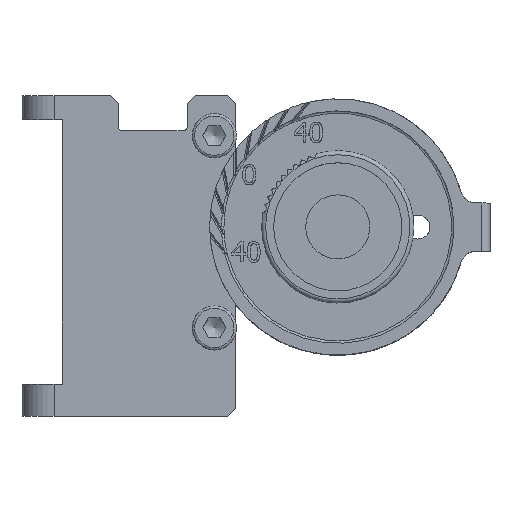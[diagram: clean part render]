
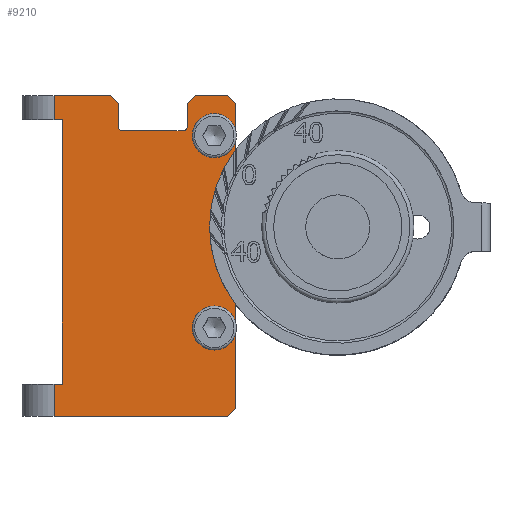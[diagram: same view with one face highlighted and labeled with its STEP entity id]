
A CAD part, top view. The second image highlights one B-rep face of the part: STEP entity #9210.
In plain terms, the highlighted planar face has unit normal (0, 0, 1).
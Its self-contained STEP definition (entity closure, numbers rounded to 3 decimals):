
#465=FACE_BOUND('',#2027,.T.);
#466=FACE_BOUND('',#2028,.T.);
#628=CIRCLE('',#9789,0.5);
#630=CIRCLE('',#9793,0.5);
#647=CIRCLE('',#9834,16.);
#648=CIRCLE('',#9839,1.9);
#649=CIRCLE('',#9840,1.9);
#967=PLANE('',#9838);
#1442=FACE_OUTER_BOUND('',#2026,.T.);
#2026=EDGE_LOOP('',(#7752,#7753,#7754,#7755,#7756,#7757,#7758,#7759,#7760,
#7761,#7762,#7763,#7764,#7765,#7766,#7767,#7768,#7769,#7770,#7771));
#2027=EDGE_LOOP('',(#7772));
#2028=EDGE_LOOP('',(#7773));
#2753=LINE('',#15475,#3495);
#2757=LINE('',#15487,#3499);
#2787=LINE('',#15558,#3529);
#2793=LINE('',#15573,#3535);
#2809=LINE('',#15614,#3551);
#2811=LINE('',#15619,#3553);
#2815=LINE('',#15625,#3557);
#2831=LINE('',#15663,#3573);
#2833=LINE('',#15666,#3575);
#2834=LINE('',#15668,#3576);
#2836=LINE('',#15673,#3578);
#2838=LINE('',#15682,#3580);
#2839=LINE('',#15684,#3581);
#2840=LINE('',#15686,#3582);
#2841=LINE('',#15688,#3583);
#2842=LINE('',#15690,#3584);
#2843=LINE('',#15691,#3585);
#3495=VECTOR('',#11531,7.6);
#3499=VECTOR('',#11543,2.9);
#3529=VECTOR('',#11599,1.414);
#3535=VECTOR('',#11611,7.);
#3551=VECTOR('',#11641,1.414);
#3553=VECTOR('',#11645,1.414);
#3557=VECTOR('',#11651,13.);
#3573=VECTOR('',#11683,1.414);
#3575=VECTOR('',#11687,4.);
#3576=VECTOR('',#11690,2.9);
#3578=VECTOR('',#11696,5.8);
#3580=VECTOR('',#11710,3.);
#3581=VECTOR('',#11711,1.);
#3582=VECTOR('',#11712,33.);
#3583=VECTOR('',#11713,1.);
#3584=VECTOR('',#11714,4.);
#3585=VECTOR('',#11715,21.6);
#4263=VERTEX_POINT('',#15465);
#4264=VERTEX_POINT('',#15466);
#4267=VERTEX_POINT('',#15474);
#4269=VERTEX_POINT('',#15480);
#4271=VERTEX_POINT('',#15486);
#4298=VERTEX_POINT('',#15556);
#4299=VERTEX_POINT('',#15557);
#4305=VERTEX_POINT('',#15571);
#4323=VERTEX_POINT('',#15613);
#4324=VERTEX_POINT('',#15617);
#4325=VERTEX_POINT('',#15618);
#4326=VERTEX_POINT('',#15623);
#4339=VERTEX_POINT('',#15660);
#4340=VERTEX_POINT('',#15662);
#4341=VERTEX_POINT('',#15672);
#4342=VERTEX_POINT('',#15681);
#4343=VERTEX_POINT('',#15683);
#4344=VERTEX_POINT('',#15685);
#4345=VERTEX_POINT('',#15687);
#4346=VERTEX_POINT('',#15689);
#4347=VERTEX_POINT('',#15692);
#4348=VERTEX_POINT('',#15694);
#5409=EDGE_CURVE('',#4263,#4264,#628,.T.);
#5413=EDGE_CURVE('',#4267,#4264,#2753,.T.);
#5416=EDGE_CURVE('',#4267,#4269,#630,.T.);
#5419=EDGE_CURVE('',#4271,#4269,#2757,.T.);
#5454=EDGE_CURVE('',#4298,#4299,#2787,.T.);
#5462=EDGE_CURVE('',#4298,#4305,#2793,.T.);
#5483=EDGE_CURVE('',#4271,#4323,#2809,.T.);
#5485=EDGE_CURVE('',#4324,#4325,#2811,.T.);
#5489=EDGE_CURVE('',#4324,#4326,#2815,.T.);
#5508=EDGE_CURVE('',#4339,#4340,#2831,.T.);
#5510=EDGE_CURVE('',#4339,#4323,#2833,.T.);
#5511=EDGE_CURVE('',#4263,#4299,#2834,.T.);
#5513=EDGE_CURVE('',#4341,#4340,#2836,.T.);
#5515=EDGE_CURVE('',#4326,#4341,#647,.T.);
#5516=EDGE_CURVE('',#4342,#4305,#2838,.T.);
#5517=EDGE_CURVE('',#4342,#4343,#2839,.T.);
#5518=EDGE_CURVE('',#4343,#4344,#2840,.T.);
#5519=EDGE_CURVE('',#4344,#4345,#2841,.T.);
#5520=EDGE_CURVE('',#4346,#4345,#2842,.T.);
#5521=EDGE_CURVE('',#4325,#4346,#2843,.T.);
#5522=EDGE_CURVE('',#4347,#4347,#648,.T.);
#5523=EDGE_CURVE('',#4348,#4348,#649,.T.);
#7752=ORIENTED_EDGE('',*,*,#5454,.F.);
#7753=ORIENTED_EDGE('',*,*,#5462,.T.);
#7754=ORIENTED_EDGE('',*,*,#5516,.F.);
#7755=ORIENTED_EDGE('',*,*,#5517,.T.);
#7756=ORIENTED_EDGE('',*,*,#5518,.T.);
#7757=ORIENTED_EDGE('',*,*,#5519,.T.);
#7758=ORIENTED_EDGE('',*,*,#5520,.F.);
#7759=ORIENTED_EDGE('',*,*,#5521,.F.);
#7760=ORIENTED_EDGE('',*,*,#5485,.F.);
#7761=ORIENTED_EDGE('',*,*,#5489,.T.);
#7762=ORIENTED_EDGE('',*,*,#5515,.T.);
#7763=ORIENTED_EDGE('',*,*,#5513,.T.);
#7764=ORIENTED_EDGE('',*,*,#5508,.F.);
#7765=ORIENTED_EDGE('',*,*,#5510,.T.);
#7766=ORIENTED_EDGE('',*,*,#5483,.F.);
#7767=ORIENTED_EDGE('',*,*,#5419,.T.);
#7768=ORIENTED_EDGE('',*,*,#5416,.F.);
#7769=ORIENTED_EDGE('',*,*,#5413,.T.);
#7770=ORIENTED_EDGE('',*,*,#5409,.F.);
#7771=ORIENTED_EDGE('',*,*,#5511,.T.);
#7772=ORIENTED_EDGE('',*,*,#5522,.T.);
#7773=ORIENTED_EDGE('',*,*,#5523,.T.);
#9210=ADVANCED_FACE('',(#1442,#465,#466),#967,.T.);
#9789=AXIS2_PLACEMENT_3D('',#15467,#11523,#11524);
#9793=AXIS2_PLACEMENT_3D('',#15481,#11536,#11537);
#9834=AXIS2_PLACEMENT_3D('',#15676,#11700,#11701);
#9838=AXIS2_PLACEMENT_3D('',#15680,#11708,#11709);
#9839=AXIS2_PLACEMENT_3D('',#15693,#11716,#11717);
#9840=AXIS2_PLACEMENT_3D('',#15695,#11718,#11719);
#11523=DIRECTION('center_axis',(0.,0.,
1.));
#11524=DIRECTION('ref_axis',(-0.707,-0.707,0.));
#11531=DIRECTION('',(-1.,0.,0.));
#11536=DIRECTION('center_axis',(0.,0.,
1.));
#11537=DIRECTION('ref_axis',(0.707,-0.707,0.));
#11543=DIRECTION('',(0.,-1.,0.));
#11599=DIRECTION('',(0.707,-0.707,0.));
#11611=DIRECTION('',(-1.,0.,0.));
#11641=DIRECTION('',(0.707,0.707,0.));
#11645=DIRECTION('',(-0.707,-0.707,0.));
#11651=DIRECTION('',(0.,1.,0.));
#11683=DIRECTION('',(0.707,-0.707,0.));
#11687=DIRECTION('',(-1.,0.,0.));
#11690=DIRECTION('',(0.,1.,0.));
#11696=DIRECTION('',(0.,1.,0.));
#11700=DIRECTION('center_axis',(0.,0.,
-1.));
#11701=DIRECTION('ref_axis',(0.,1.,0.));
#11708=DIRECTION('center_axis',(0.,0.,
1.));
#11709=DIRECTION('ref_axis',(0.,-1.,0.));
#11710=DIRECTION('',(0.,1.,0.));
#11711=DIRECTION('',(1.,0.,0.));
#11712=DIRECTION('',(0.,-1.,0.));
#11713=DIRECTION('',(-1.,0.,0.));
#11714=DIRECTION('',(0.,1.,0.));
#11715=DIRECTION('',(-1.,0.,0.));
#11716=DIRECTION('center_axis',(0.,0.,
-1.));
#11717=DIRECTION('ref_axis',(0.,1.,0.));
#11718=DIRECTION('center_axis',(0.,0.,
-1.));
#11719=DIRECTION('ref_axis',(0.,1.,0.));
#15465=CARTESIAN_POINT('',(-18.602,19.757,7.875));
#15466=CARTESIAN_POINT('',(-18.102,19.257,7.875));
#15467=CARTESIAN_POINT('Origin',(-18.102,19.757,7.875));
#15474=CARTESIAN_POINT('',(-10.502,19.257,7.875));
#15475=CARTESIAN_POINT('',(-8.602,19.257,7.875));
#15480=CARTESIAN_POINT('',(-10.002,19.757,7.875));
#15481=CARTESIAN_POINT('Origin',(-10.502,19.757,7.875));
#15486=CARTESIAN_POINT('',(-10.002,22.657,7.875));
#15487=CARTESIAN_POINT('',(-10.002,1.457,7.875));
#15556=CARTESIAN_POINT('',(-19.602,23.657,7.875));
#15557=CARTESIAN_POINT('',(-18.602,22.657,7.875));
#15558=CARTESIAN_POINT('',(-4.102,8.157,7.875));
#15571=CARTESIAN_POINT('',(-26.602,23.657,7.875));
#15573=CARTESIAN_POINT('',(1.398,23.657,7.875));
#15613=CARTESIAN_POINT('',(-9.002,23.657,7.875));
#15614=CARTESIAN_POINT('',(-16.652,16.007,7.875));
#15617=CARTESIAN_POINT('',(-4.002,-15.343,7.875));
#15618=CARTESIAN_POINT('',(-5.002,-16.343,7.875));
#15619=CARTESIAN_POINT('',(-3.152,-14.493,7.875));
#15623=CARTESIAN_POINT('',(-4.002,-2.343,7.875));
#15625=CARTESIAN_POINT('',(-4.002,-6.343,7.875));
#15660=CARTESIAN_POINT('',(-5.002,23.657,7.875));
#15662=CARTESIAN_POINT('',(-4.002,22.657,7.875));
#15663=CARTESIAN_POINT('',(6.848,11.807,7.875));
#15666=CARTESIAN_POINT('',(1.398,23.657,7.875));
#15668=CARTESIAN_POINT('',(-18.602,3.657,7.875));
#15672=CARTESIAN_POINT('',(-4.002,16.857,7.875));
#15673=CARTESIAN_POINT('',(-4.002,-6.343,7.875));
#15676=CARTESIAN_POINT('Origin',(8.798,7.257,7.875));
#15680=CARTESIAN_POINT('Origin',(1.398,-16.343,7.875));
#15681=CARTESIAN_POINT('',(-26.602,20.657,7.875));
#15682=CARTESIAN_POINT('',(-26.602,-16.343,7.875));
#15683=CARTESIAN_POINT('',(-25.602,20.657,7.875));
#15684=CARTESIAN_POINT('',(-14.602,20.657,7.875));
#15685=CARTESIAN_POINT('',(-25.602,-12.343,7.875));
#15686=CARTESIAN_POINT('',(-25.602,-6.093,7.875));
#15687=CARTESIAN_POINT('',(-26.602,-12.343,7.875));
#15688=CARTESIAN_POINT('',(-14.602,-12.343,7.875));
#15689=CARTESIAN_POINT('',(-26.602,-16.343,7.875));
#15690=CARTESIAN_POINT('',(-26.602,-16.343,7.875));
#15691=CARTESIAN_POINT('',(1.398,-16.343,7.875));
#15692=CARTESIAN_POINT('',(-6.602,16.757,7.875));
#15693=CARTESIAN_POINT('Origin',(-6.602,18.657,7.875));
#15694=CARTESIAN_POINT('',(-6.602,-7.243,7.875));
#15695=CARTESIAN_POINT('Origin',(-6.602,-5.343,7.875));
